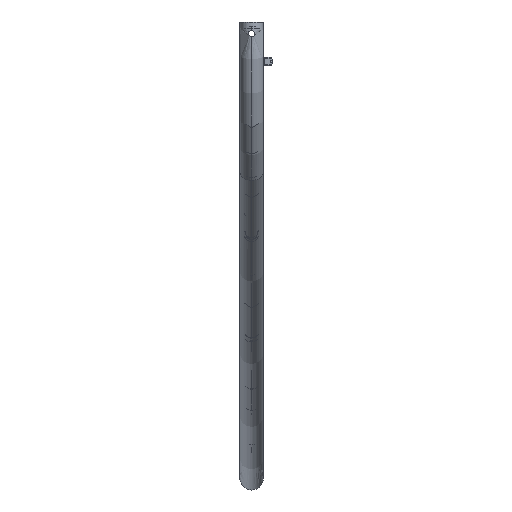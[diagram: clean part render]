
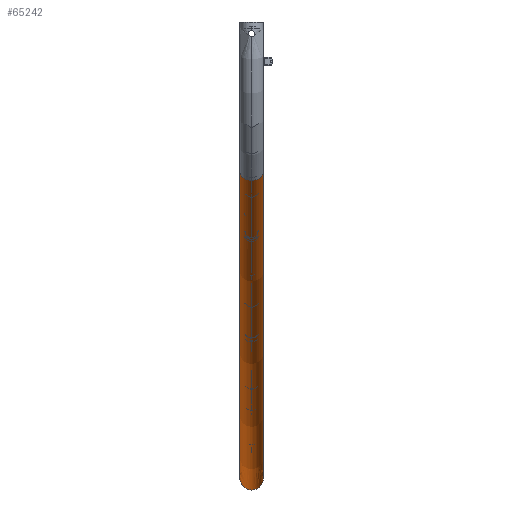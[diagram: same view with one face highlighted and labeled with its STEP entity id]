
A CAD part, left-side view. The second image highlights one B-rep face of the part: STEP entity #65242.
In plain terms, the highlighted toroidal (fillet/blend) face has major radius 223 mm and minor radius 2 mm.
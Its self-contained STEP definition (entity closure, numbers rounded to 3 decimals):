
#1616 = DIRECTION ( 'NONE',  ( 0., -1., 0. ) ) ;
#3697 = DIRECTION ( 'NONE',  ( -0.646, 0., -0.763 ) ) ;
#3998 = CARTESIAN_POINT ( 'NONE',  ( -130.707, 2., -25.566 ) ) ;
#5801 = CARTESIAN_POINT ( 'NONE',  ( 0., -0.264, -80. ) ) ;
#8938 = AXIS2_PLACEMENT_3D ( 'NONE', #29984, #88331, #66456 ) ;
#9502 = AXIS2_PLACEMENT_3D ( 'NONE', #34245, #26337, #26030 ) ;
#10255 = CIRCLE ( 'NONE', #74283, 2. ) ;
#12141 = CARTESIAN_POINT ( 'NONE',  ( 0., 0.645, -79.898 ) ) ;
#12749 = CARTESIAN_POINT ( 'NONE',  ( 0., 1.947, -78.523 ) ) ;
#13084 = CARTESIAN_POINT ( 'NONE',  ( 0., 0.518, -79.936 ) ) ;
#19472 = CARTESIAN_POINT ( 'NONE',  ( 0., 1.002, -79.735 ) ) ;
#22292 = DIRECTION ( 'NONE',  ( 0., 0., -1. ) ) ;
#25753 = TOROIDAL_SURFACE ( 'NONE', #9502, 223., 2. ) ;
#25865 = ORIENTED_EDGE ( 'NONE', *, *, #36823, .F. ) ;
#26030 = DIRECTION ( 'NONE',  ( 0., 0., -1. ) ) ;
#26337 = DIRECTION ( 'NONE',  ( 0., -1., 0. ) ) ;
#26773 = CARTESIAN_POINT ( 'NONE',  ( 0., 1.322, -79.505 ) ) ;
#27078 = CARTESIAN_POINT ( 'NONE',  ( 0., 1.599, -79.228 ) ) ;
#27398 = CARTESIAN_POINT ( 'NONE',  ( 0., 2., -77.996 ) ) ;
#29875 = CARTESIAN_POINT ( 'NONE',  ( -130.707, -2., -25.566 ) ) ;
#29984 = CARTESIAN_POINT ( 'NONE',  ( 13.421, 2., 144.599 ) ) ;
#31284 = EDGE_CURVE ( 'NONE', #90181, #91115, #10255, .T. ) ;
#32737 = AXIS2_PLACEMENT_3D ( 'NONE', #87905, #1616, #22292 ) ;
#34057 = EDGE_CURVE ( 'NONE', #47977, #40213, #55979, .T. ) ;
#34245 = CARTESIAN_POINT ( 'NONE',  ( 13.421, 0., 144.599 ) ) ;
#34685 = CARTESIAN_POINT ( 'NONE',  ( 0., 0.887, -79.797 ) ) ;
#35291 = EDGE_LOOP ( 'NONE', ( #91381, #59276, #70600, #25865 ) ) ;
#36823 = EDGE_CURVE ( 'NONE', #40213, #91115, #77656, .T. ) ;
#40213 = VERTEX_POINT ( 'NONE', #51401 ) ;
#42251 = CARTESIAN_POINT ( 'NONE',  ( 0., -1.936, -78.514 ) ) ;
#47419 = DIRECTION ( 'NONE',  ( 0.763, 0., -0.646 ) ) ;
#47977 = VERTEX_POINT ( 'NONE', #70617 ) ;
#48311 = CARTESIAN_POINT ( 'NONE',  ( 0., -1.898, -78.641 ) ) ;
#49219 = CARTESIAN_POINT ( 'NONE',  ( 0., -0.527, -79.947 ) ) ;
#51401 = CARTESIAN_POINT ( 'NONE',  ( 0., 2., -77.996 ) ) ;
#55603 = CARTESIAN_POINT ( 'NONE',  ( 0., -2., -78.129 ) ) ;
#55657 = CARTESIAN_POINT ( 'NONE',  ( -130.707, 0., -25.566 ) ) ;
#55902 = CARTESIAN_POINT ( 'NONE',  ( 0., -1.798, -78.884 ) ) ;
#55979 = B_SPLINE_CURVE_WITH_KNOTS ( 'NONE', 3,
 ( #92137, #55603, #63849, #42251, #48311, #55902, #56875, #56230, #64176, #69892, #70520, #49219, #5801, #77213, #56539, #13084, #12141, #34685, #19472, #70209, #26773, #27078, #77822, #12749, #70832, #27398 ),
 .UNSPECIFIED., .F., .F.,
 ( 4, 2, 2, 2, 2, 2, 2, 2, 2, 2, 2, 2, 4 ),
 ( -0.003, -0.003, -0.002, -0.002, -0.002, -0.001, 0., 0., 0.001, 0.001, 0.002, 0.002, 0.003 ),
 .UNSPECIFIED. ) ;
#56230 = CARTESIAN_POINT ( 'NONE',  ( 0., -1.592, -79.216 ) ) ;
#56539 = CARTESIAN_POINT ( 'NONE',  ( 0., 0.262, -79.987 ) ) ;
#56875 = CARTESIAN_POINT ( 'NONE',  ( 0., -1.737, -78.999 ) ) ;
#59276 = ORIENTED_EDGE ( 'NONE', *, *, #67301, .F. ) ;
#63849 = CARTESIAN_POINT ( 'NONE',  ( 0., -1.987, -78.259 ) ) ;
#64176 = CARTESIAN_POINT ( 'NONE',  ( 0., -1.508, -79.32 ) ) ;
#65242 = ADVANCED_FACE ( 'NONE', ( #77882 ), #25753, .T. ) ;
#66456 = DIRECTION ( 'NONE',  ( 0., 0., -1. ) ) ;
#67301 = EDGE_CURVE ( 'NONE', #90181, #47977, #81118, .T. ) ;
#69892 = CARTESIAN_POINT ( 'NONE',  ( 0., -1.231, -79.597 ) ) ;
#70209 = CARTESIAN_POINT ( 'NONE',  ( 0., 1.219, -79.59 ) ) ;
#70520 = CARTESIAN_POINT ( 'NONE',  ( 0., -1.008, -79.746 ) ) ;
#70600 = ORIENTED_EDGE ( 'NONE', *, *, #31284, .T. ) ;
#70617 = CARTESIAN_POINT ( 'NONE',  ( 0., -2., -77.996 ) ) ;
#70832 = CARTESIAN_POINT ( 'NONE',  ( 0., 2., -78.261 ) ) ;
#74283 = AXIS2_PLACEMENT_3D ( 'NONE', #55657, #47419, #3697 ) ;
#77213 = CARTESIAN_POINT ( 'NONE',  ( 0., 0.132, -80. ) ) ;
#77656 = CIRCLE ( 'NONE', #8938, 223. ) ;
#77822 = CARTESIAN_POINT ( 'NONE',  ( 0., 1.748, -79.005 ) ) ;
#77882 = FACE_OUTER_BOUND ( 'NONE', #35291, .T. ) ;
#81118 = CIRCLE ( 'NONE', #32737, 223. ) ;
#87905 = CARTESIAN_POINT ( 'NONE',  ( 13.421, -2., 144.599 ) ) ;
#88331 = DIRECTION ( 'NONE',  ( 0., 1., 0. ) ) ;
#90181 = VERTEX_POINT ( 'NONE', #29875 ) ;
#91115 = VERTEX_POINT ( 'NONE', #3998 ) ;
#91381 = ORIENTED_EDGE ( 'NONE', *, *, #34057, .F. ) ;
#92137 = CARTESIAN_POINT ( 'NONE',  ( 0., -2., -77.996 ) ) ;
